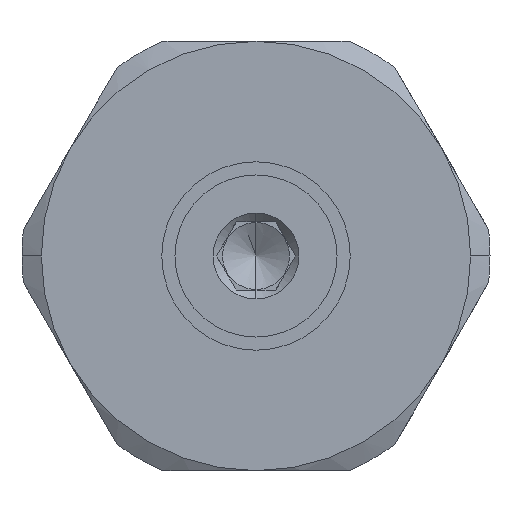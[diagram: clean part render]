
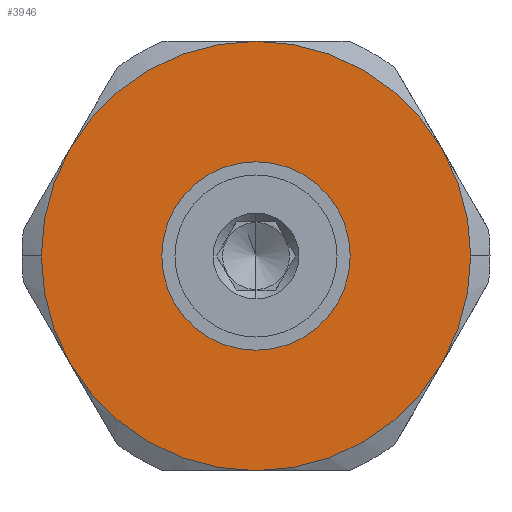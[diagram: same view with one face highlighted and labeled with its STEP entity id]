
A CAD part, left-side view. The second image highlights one B-rep face of the part: STEP entity #3946.
In plain terms, the highlighted planar face has unit normal (-1, 0, 0).
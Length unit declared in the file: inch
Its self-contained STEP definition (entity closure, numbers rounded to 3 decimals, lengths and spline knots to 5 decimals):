
#516=CARTESIAN_POINT('',(0.29503,-0.5,1.70497));
#517=VERTEX_POINT('',#516);
#533=CARTESIAN_POINT('',(0.29503,-0.43301,1.95497));
#534=VERTEX_POINT('',#533);
#548=CARTESIAN_POINT('',(0.29503,0.,1.70497));
#549=DIRECTION('',(-1.0,0.0,0.0));
#550=DIRECTION('',(0.0,-1.0,0.0));
#551=AXIS2_PLACEMENT_3D('',#548,#549,#550);
#552=CIRCLE('',#551,0.5);
#553=EDGE_CURVE('',#517,#534,#552,.T.);
#563=CARTESIAN_POINT('',(0.29503,0.5,1.70497));
#564=VERTEX_POINT('',#563);
#571=CARTESIAN_POINT('',(0.29503,0.43301,1.95497));
#572=VERTEX_POINT('',#571);
#573=CARTESIAN_POINT('',(0.29503,0.,1.70497));
#574=DIRECTION('',(-1.0,0.0,0.0));
#575=DIRECTION('',(0.0,-1.0,0.0));
#576=AXIS2_PLACEMENT_3D('',#573,#574,#575);
#577=CIRCLE('',#576,0.5);
#578=EDGE_CURVE('',#572,#564,#577,.T.);
#602=CARTESIAN_POINT('',(0.29503,-0.2195,1.70497));
#603=VERTEX_POINT('',#602);
#612=CARTESIAN_POINT('',(0.29503,0.2195,1.70497));
#613=VERTEX_POINT('',#612);
#614=CARTESIAN_POINT('',(0.29503,0.,1.70497));
#615=DIRECTION('',(1.0,0.0,0.0));
#616=DIRECTION('',(0.0,-1.0,0.0));
#617=AXIS2_PLACEMENT_3D('',#614,#615,#616);
#618=CIRCLE('',#617,0.2195);
#619=EDGE_CURVE('',#613,#603,#618,.T.);
#3873=CARTESIAN_POINT('',(0.29503,0.,1.70497));
#3874=DIRECTION('',(1.0,0.0,0.0));
#3875=DIRECTION('',(0.0,-1.0,0.0));
#3876=AXIS2_PLACEMENT_3D('',#3873,#3874,#3875);
#3877=CIRCLE('',#3876,0.2195);
#3878=EDGE_CURVE('',#603,#613,#3877,.T.);
#3883=CARTESIAN_POINT('',(0.29503,0.,1.70497));
#3884=DIRECTION('',(1.0,0.0,0.0));
#3885=DIRECTION('',(0.0,0.0,1.0));
#3886=AXIS2_PLACEMENT_3D('',#3883,#3884,#3885);
#3887=PLANE('',#3886);
#3888=CARTESIAN_POINT('',(0.29503,0.43301,1.45497));
#3889=VERTEX_POINT('',#3888);
#3890=CARTESIAN_POINT('',(0.29503,0.,1.20497));
#3891=VERTEX_POINT('',#3890);
#3892=CARTESIAN_POINT('',(0.29503,0.,1.70497));
#3893=DIRECTION('',(-1.0,0.0,0.0));
#3894=DIRECTION('',(0.0,-1.0,0.0));
#3895=AXIS2_PLACEMENT_3D('',#3892,#3893,#3894);
#3896=CIRCLE('',#3895,0.5);
#3897=EDGE_CURVE('',#3889,#3891,#3896,.T.);
#3898=ORIENTED_EDGE('',*,*,#3897,.T.);
#3899=CARTESIAN_POINT('',(0.29503,-0.43301,1.45497));
#3900=VERTEX_POINT('',#3899);
#3901=CARTESIAN_POINT('',(0.29503,0.,1.70497));
#3902=DIRECTION('',(-1.0,0.0,0.0));
#3903=DIRECTION('',(0.0,-1.0,0.0));
#3904=AXIS2_PLACEMENT_3D('',#3901,#3902,#3903);
#3905=CIRCLE('',#3904,0.5);
#3906=EDGE_CURVE('',#3891,#3900,#3905,.T.);
#3907=ORIENTED_EDGE('',*,*,#3906,.T.);
#3908=CARTESIAN_POINT('',(0.29503,0.,1.70497));
#3909=DIRECTION('',(-1.0,0.0,0.0));
#3910=DIRECTION('',(0.0,-1.0,0.0));
#3911=AXIS2_PLACEMENT_3D('',#3908,#3909,#3910);
#3912=CIRCLE('',#3911,0.5);
#3913=EDGE_CURVE('',#3900,#517,#3912,.T.);
#3914=ORIENTED_EDGE('',*,*,#3913,.T.);
#3915=ORIENTED_EDGE('',*,*,#553,.T.);
#3916=CARTESIAN_POINT('',(0.29503,0.,2.20497));
#3917=VERTEX_POINT('',#3916);
#3918=CARTESIAN_POINT('',(0.29503,0.,1.70497));
#3919=DIRECTION('',(-1.0,0.0,0.0));
#3920=DIRECTION('',(0.0,-1.0,0.0));
#3921=AXIS2_PLACEMENT_3D('',#3918,#3919,#3920);
#3922=CIRCLE('',#3921,0.5);
#3923=EDGE_CURVE('',#534,#3917,#3922,.T.);
#3924=ORIENTED_EDGE('',*,*,#3923,.T.);
#3925=CARTESIAN_POINT('',(0.29503,0.,1.70497));
#3926=DIRECTION('',(-1.0,0.0,0.0));
#3927=DIRECTION('',(0.0,-1.0,0.0));
#3928=AXIS2_PLACEMENT_3D('',#3925,#3926,#3927);
#3929=CIRCLE('',#3928,0.5);
#3930=EDGE_CURVE('',#3917,#572,#3929,.T.);
#3931=ORIENTED_EDGE('',*,*,#3930,.T.);
#3932=ORIENTED_EDGE('',*,*,#578,.T.);
#3933=CARTESIAN_POINT('',(0.29503,0.,1.70497));
#3934=DIRECTION('',(-1.0,0.0,0.0));
#3935=DIRECTION('',(0.0,-1.0,0.0));
#3936=AXIS2_PLACEMENT_3D('',#3933,#3934,#3935);
#3937=CIRCLE('',#3936,0.5);
#3938=EDGE_CURVE('',#564,#3889,#3937,.T.);
#3939=ORIENTED_EDGE('',*,*,#3938,.T.);
#3940=EDGE_LOOP('',(#3898,#3907,#3914,#3915,#3924,#3931,#3932,#3939));
#3941=FACE_OUTER_BOUND('',#3940,.T.);
#3942=ORIENTED_EDGE('',*,*,#3878,.T.);
#3943=ORIENTED_EDGE('',*,*,#619,.T.);
#3944=EDGE_LOOP('',(#3942,#3943));
#3945=FACE_BOUND('',#3944,.T.);
#3946=ADVANCED_FACE('',(#3941,#3945),#3887,.F.);
